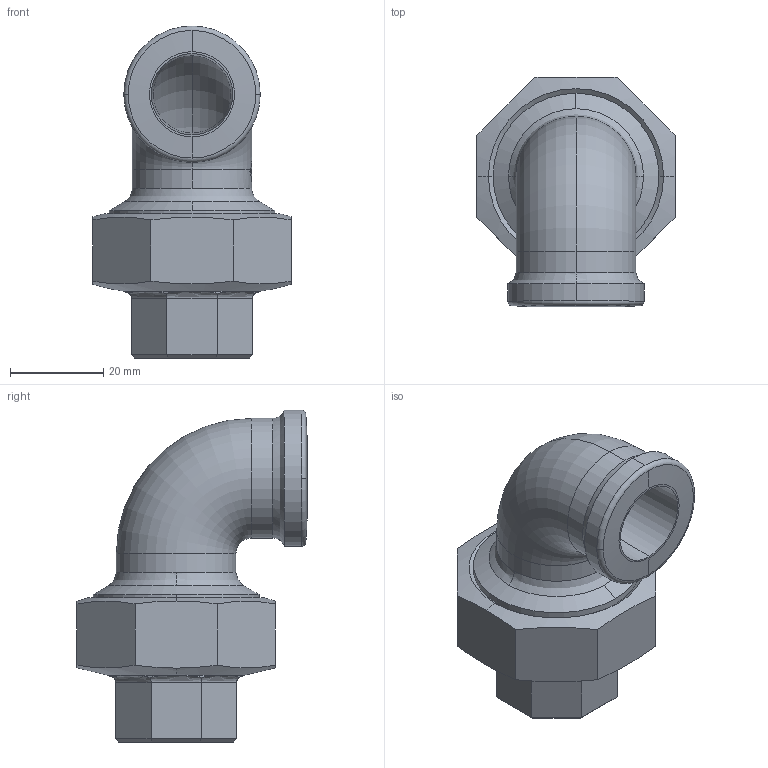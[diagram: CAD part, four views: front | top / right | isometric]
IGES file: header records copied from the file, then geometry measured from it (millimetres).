
Global section: file name: No Iges File Name specified; native system: AutoDesk Inventor R12.0; preprocessor: AutoDesk Inventor Iges Exporter R12.0; date: 20090918.092223; units: millimetre
Bounding box: 42.42 x 49.21 x 71.03 mm (x, y, z)
Volume: 33597 mm3; surface area: 17354.2 mm2
Topology: 1 solids, 1 shells, 146 faces, 377 edges, 240 vertices
Faces by surface type: plane 61, revolution 32, bspline 27, cylinder 15, torus 7, cone 4
